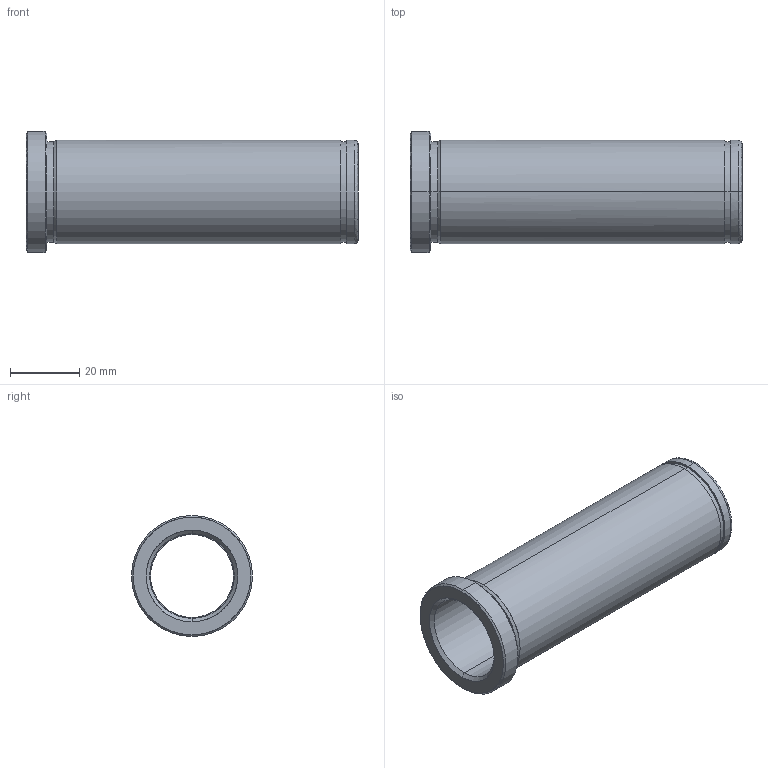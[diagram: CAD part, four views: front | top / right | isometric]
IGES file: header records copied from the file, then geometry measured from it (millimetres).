
Start section: START RECORD GO HERE.
Global section: file name: 553-24X96.igs; native system: DASSAULT SYSTEMES CATIA V5 R20 - www.3ds.com; preprocessor: CATIA Version 5 Release 20 ; author: Utente; organization: NB04-ASUS; date: 20210525.201815; units: millimetre
Bounding box: 96 x 35 x 35 mm (x, y, z)
Surface area: 17372.6 mm2 (no closed solid volume)
Topology: 0 solids, 0 shells, 32 faces, 204 edges, 204 vertices
Faces by surface type: revolution 26, plane 6
